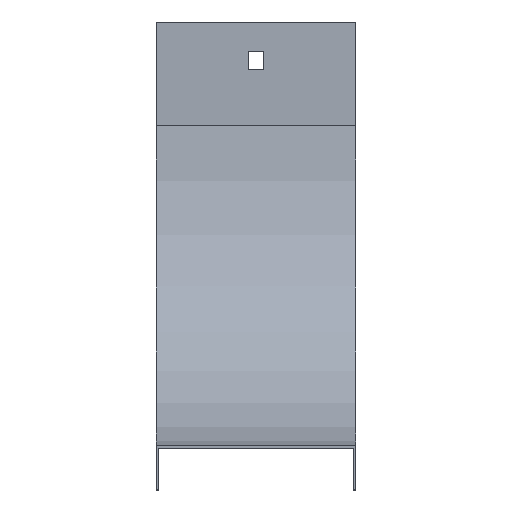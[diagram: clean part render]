
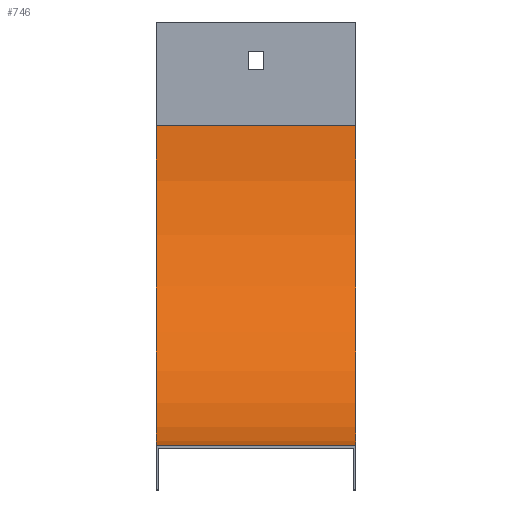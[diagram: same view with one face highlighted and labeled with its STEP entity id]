
A CAD part, top view. The second image highlights one B-rep face of the part: STEP entity #746.
In plain terms, the highlighted cylindrical face has radius 124 mm (diameter 248 mm), a partial arc.
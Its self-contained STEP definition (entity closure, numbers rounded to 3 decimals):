
#2 = AXIS2_PLACEMENT_3D ( 'NONE', #371, #390, #832 ) ;
#13 = EDGE_CURVE ( 'NONE', #79, #833, #68, .T. ) ;
#54 = CARTESIAN_POINT ( 'NONE',  ( 38.5, 124., -40. ) ) ;
#68 = CIRCLE ( 'NONE', #2, 124. ) ;
#69 = AXIS2_PLACEMENT_3D ( 'NONE', #54, #465, #471 ) ;
#79 = VERTEX_POINT ( 'NONE', #198 ) ;
#85 = CARTESIAN_POINT ( 'NONE',  ( 38.5, 124., -164. ) ) ;
#103 = DIRECTION ( 'NONE',  ( 0., 0., 1. ) ) ;
#107 = ORIENTED_EDGE ( 'NONE', *, *, #539, .F. ) ;
#115 = ORIENTED_EDGE ( 'NONE', *, *, #13, .T. ) ;
#127 = DIRECTION ( 'NONE',  ( -1., 0., 0. ) ) ;
#161 = EDGE_CURVE ( 'NONE', #736, #79, #277, .T. ) ;
#198 = CARTESIAN_POINT ( 'NONE',  ( -38.5, 124., -164. ) ) ;
#274 = VECTOR ( 'NONE', #127, 1000. ) ;
#277 = LINE ( 'NONE', #541, #274 ) ;
#341 = CARTESIAN_POINT ( 'NONE',  ( 38.5, 0., -40. ) ) ;
#363 = EDGE_LOOP ( 'NONE', ( #115, #818, #107, #814 ) ) ;
#371 = CARTESIAN_POINT ( 'NONE',  ( -38.5, 124., -40. ) ) ;
#390 = DIRECTION ( 'NONE',  ( -1., 0., 0. ) ) ;
#394 = DIRECTION ( 'NONE',  ( -1., 0., 0. ) ) ;
#398 = CARTESIAN_POINT ( 'NONE',  ( 38.5, 0., -40. ) ) ;
#436 = EDGE_CURVE ( 'NONE', #642, #833, #515, .T. ) ;
#465 = DIRECTION ( 'NONE',  ( -1., 0., 0. ) ) ;
#471 = DIRECTION ( 'NONE',  ( 0., 0., -1. ) ) ;
#515 = LINE ( 'NONE', #398, #822 ) ;
#539 = EDGE_CURVE ( 'NONE', #736, #642, #551, .T. ) ;
#541 = CARTESIAN_POINT ( 'NONE',  ( 38.5, 124., -164. ) ) ;
#551 = CIRCLE ( 'NONE', #69, 124. ) ;
#642 = VERTEX_POINT ( 'NONE', #341 ) ;
#685 = DIRECTION ( 'NONE',  ( -1., 0., 0. ) ) ;
#701 = AXIS2_PLACEMENT_3D ( 'NONE', #705, #685, #103 ) ;
#705 = CARTESIAN_POINT ( 'NONE',  ( 38.5, 124., -40. ) ) ;
#736 = VERTEX_POINT ( 'NONE', #85 ) ;
#746 = ADVANCED_FACE ( 'NONE', ( #819 ), #761, .F. ) ;
#761 = CYLINDRICAL_SURFACE ( 'NONE', #701, 124. ) ;
#778 = CARTESIAN_POINT ( 'NONE',  ( -38.5, 0., -40. ) ) ;
#814 = ORIENTED_EDGE ( 'NONE', *, *, #161, .T. ) ;
#818 = ORIENTED_EDGE ( 'NONE', *, *, #436, .F. ) ;
#819 = FACE_OUTER_BOUND ( 'NONE', #363, .T. ) ;
#822 = VECTOR ( 'NONE', #394, 1000. ) ;
#832 = DIRECTION ( 'NONE',  ( 0., 0., -1. ) ) ;
#833 = VERTEX_POINT ( 'NONE', #778 ) ;
